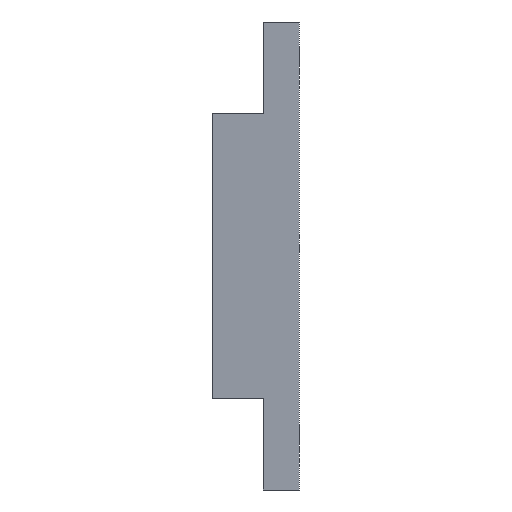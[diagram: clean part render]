
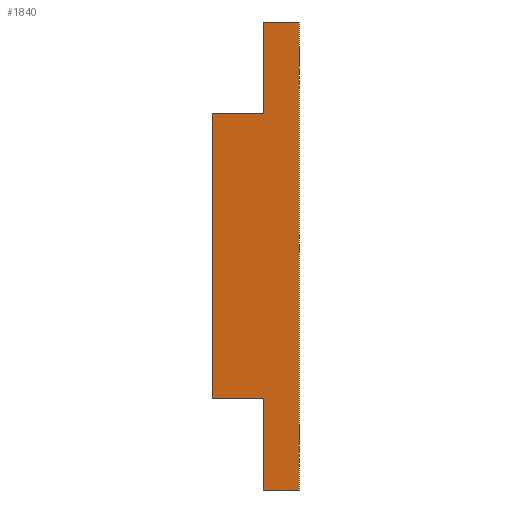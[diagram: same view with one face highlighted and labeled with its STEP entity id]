
A CAD part, left-side view. The second image highlights one B-rep face of the part: STEP entity #1840.
In plain terms, the highlighted planar face has unit normal (-0.997, 0, -0.084).
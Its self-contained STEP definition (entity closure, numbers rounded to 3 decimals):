
#37 = DIRECTION ( 'NONE',  ( 0., -1., 0. ) ) ;
#96 = EDGE_CURVE ( 'NONE', #303, #346, #2161, .T. ) ;
#169 = EDGE_LOOP ( 'NONE', ( #2500, #1170, #1419, #824, #816, #1596, #1750, #634 ) ) ;
#218 = LINE ( 'NONE', #503, #2641 ) ;
#290 = EDGE_CURVE ( 'NONE', #308, #346, #528, .T. ) ;
#303 = VERTEX_POINT ( 'NONE', #800 ) ;
#308 = VERTEX_POINT ( 'NONE', #400 ) ;
#310 = PLANE ( 'NONE',  #1989 ) ;
#346 = VERTEX_POINT ( 'NONE', #2057 ) ;
#400 = CARTESIAN_POINT ( 'NONE',  ( -148.675, 9.6, -15.8 ) ) ;
#440 = CARTESIAN_POINT ( 'NONE',  ( -151.325, 9.6, 15.8 ) ) ;
#503 = CARTESIAN_POINT ( 'NONE',  ( -152.18, 0., 26. ) ) ;
#528 = LINE ( 'NONE', #2054, #2008 ) ;
#575 = LINE ( 'NONE', #2276, #927 ) ;
#634 = ORIENTED_EDGE ( 'NONE', *, *, #2326, .T. ) ;
#638 = LINE ( 'NONE', #1985, #897 ) ;
#702 = EDGE_CURVE ( 'NONE', #1675, #1812, #638, .T. ) ;
#708 = DIRECTION ( 'NONE',  ( 0.084, 0., -0.997 ) ) ;
#800 = CARTESIAN_POINT ( 'NONE',  ( -147.82, 4., -26. ) ) ;
#816 = ORIENTED_EDGE ( 'NONE', *, *, #1361, .F. ) ;
#818 = DIRECTION ( 'NONE',  ( 0., -1., 0. ) ) ;
#824 = ORIENTED_EDGE ( 'NONE', *, *, #1311, .F. ) ;
#892 = EDGE_CURVE ( 'NONE', #2439, #1812, #218, .T. ) ;
#897 = VECTOR ( 'NONE', #1140, 1000. ) ;
#927 = VECTOR ( 'NONE', #1445, 1000. ) ;
#932 = DIRECTION ( 'NONE',  ( -0.084, 0., 0.997 ) ) ;
#941 = CARTESIAN_POINT ( 'NONE',  ( -152.18, 4., 26. ) ) ;
#1038 = VECTOR ( 'NONE', #818, 1000. ) ;
#1085 = EDGE_CURVE ( 'NONE', #2018, #1675, #575, .T. ) ;
#1132 = DIRECTION ( 'NONE',  ( 0.997, 0., 0.084 ) ) ;
#1133 = FACE_OUTER_BOUND ( 'NONE', #169, .T. ) ;
#1140 = DIRECTION ( 'NONE',  ( 0., -1., 0. ) ) ;
#1170 = ORIENTED_EDGE ( 'NONE', *, *, #702, .F. ) ;
#1311 = EDGE_CURVE ( 'NONE', #2524, #2018, #2236, .T. ) ;
#1361 = EDGE_CURVE ( 'NONE', #308, #2524, #1753, .T. ) ;
#1407 = CARTESIAN_POINT ( 'NONE',  ( -151.325, 4., 15.8 ) ) ;
#1419 = ORIENTED_EDGE ( 'NONE', *, *, #1085, .F. ) ;
#1430 = DIRECTION ( 'NONE',  ( 0., -1., 0. ) ) ;
#1445 = DIRECTION ( 'NONE',  ( -0.084, 0., 0.997 ) ) ;
#1487 = DIRECTION ( 'NONE',  ( -0.084, 0., 0.997 ) ) ;
#1596 = ORIENTED_EDGE ( 'NONE', *, *, #290, .T. ) ;
#1675 = VERTEX_POINT ( 'NONE', #1889 ) ;
#1750 = ORIENTED_EDGE ( 'NONE', *, *, #96, .F. ) ;
#1753 = LINE ( 'NONE', #2336, #2507 ) ;
#1779 = CARTESIAN_POINT ( 'NONE',  ( -152.18, 0., 26. ) ) ;
#1812 = VERTEX_POINT ( 'NONE', #1779 ) ;
#1840 = ADVANCED_FACE ( 'NONE', ( #1133 ), #310, .F. ) ;
#1874 = VECTOR ( 'NONE', #932, 1000. ) ;
#1889 = CARTESIAN_POINT ( 'NONE',  ( -152.18, 4., 26. ) ) ;
#1915 = DIRECTION ( 'NONE',  ( -0.084, 0., 0.997 ) ) ;
#1920 = VECTOR ( 'NONE', #37, 1000. ) ;
#1983 = CARTESIAN_POINT ( 'NONE',  ( -152.18, 4., 26. ) ) ;
#1985 = CARTESIAN_POINT ( 'NONE',  ( -152.18, 4., 26. ) ) ;
#1989 = AXIS2_PLACEMENT_3D ( 'NONE', #941, #1132, #708 ) ;
#2008 = VECTOR ( 'NONE', #1430, 1000. ) ;
#2018 = VERTEX_POINT ( 'NONE', #1407 ) ;
#2032 = LINE ( 'NONE', #2577, #1038 ) ;
#2054 = CARTESIAN_POINT ( 'NONE',  ( -148.675, 9.6, -15.8 ) ) ;
#2057 = CARTESIAN_POINT ( 'NONE',  ( -148.675, 4., -15.8 ) ) ;
#2161 = LINE ( 'NONE', #1983, #1874 ) ;
#2236 = LINE ( 'NONE', #440, #1920 ) ;
#2240 = CARTESIAN_POINT ( 'NONE',  ( -147.82, 0., -26. ) ) ;
#2276 = CARTESIAN_POINT ( 'NONE',  ( -152.18, 4., 26. ) ) ;
#2326 = EDGE_CURVE ( 'NONE', #303, #2439, #2032, .T. ) ;
#2336 = CARTESIAN_POINT ( 'NONE',  ( -148.675, 9.6, -15.8 ) ) ;
#2439 = VERTEX_POINT ( 'NONE', #2240 ) ;
#2444 = CARTESIAN_POINT ( 'NONE',  ( -151.325, 9.6, 15.8 ) ) ;
#2500 = ORIENTED_EDGE ( 'NONE', *, *, #892, .T. ) ;
#2507 = VECTOR ( 'NONE', #1915, 1000. ) ;
#2524 = VERTEX_POINT ( 'NONE', #2444 ) ;
#2577 = CARTESIAN_POINT ( 'NONE',  ( -147.82, 4., -26. ) ) ;
#2641 = VECTOR ( 'NONE', #1487, 1000. ) ;
